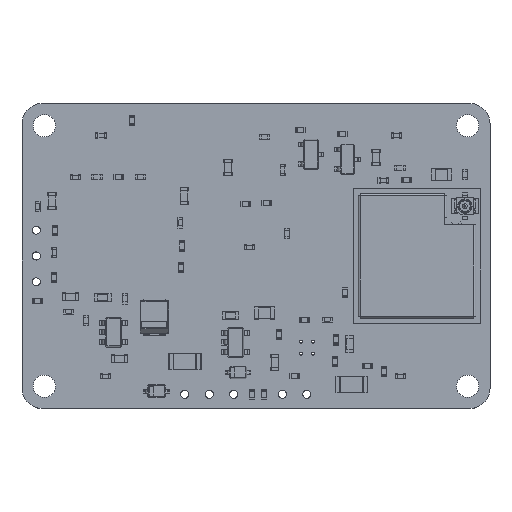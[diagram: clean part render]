
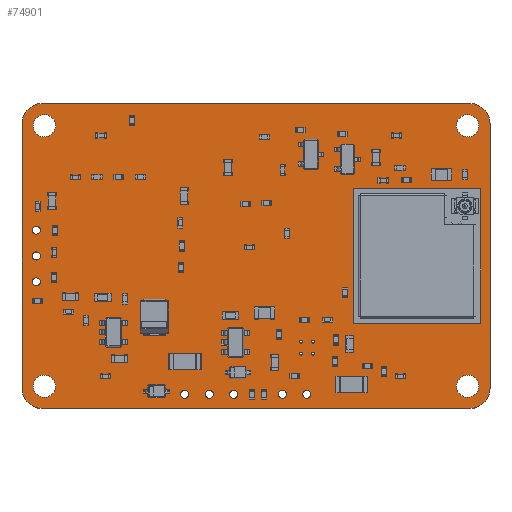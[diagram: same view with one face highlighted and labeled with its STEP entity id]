
A CAD part, top view. The second image highlights one B-rep face of the part: STEP entity #74901.
In plain terms, the highlighted planar face has unit normal (0, 0, 1).
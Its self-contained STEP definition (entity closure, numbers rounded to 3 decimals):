
#74576 = VERTEX_POINT('',#74577);
#74577 = CARTESIAN_POINT('',(121.,15.,0.91));
#74583 = EDGE_CURVE('',#74576,#74584,#74586,.T.);
#74584 = VERTEX_POINT('',#74585);
#74585 = CARTESIAN_POINT('',(123.,13.,0.91));
#74586 = CIRCLE('',#74587,2.);
#74587 = AXIS2_PLACEMENT_3D('',#74588,#74589,#74590);
#74588 = CARTESIAN_POINT('',(121.,13.,0.91));
#74589 = DIRECTION('',(0.,0.,-1.));
#74590 = DIRECTION('',(0.,1.,0.));
#74618 = VERTEX_POINT('',#74619);
#74619 = CARTESIAN_POINT('',(79.,15.,0.91));
#74625 = EDGE_CURVE('',#74618,#74576,#74626,.T.);
#74626 = LINE('',#74627,#74628);
#74627 = CARTESIAN_POINT('',(79.,15.,0.91));
#74628 = VECTOR('',#74629,1.);
#74629 = DIRECTION('',(1.,0.,0.));
#74647 = EDGE_CURVE('',#74584,#74648,#74650,.T.);
#74648 = VERTEX_POINT('',#74649);
#74649 = CARTESIAN_POINT('',(123.,-13.,0.91));
#74650 = LINE('',#74651,#74652);
#74651 = CARTESIAN_POINT('',(123.,13.,0.91));
#74652 = VECTOR('',#74653,1.);
#74653 = DIRECTION('',(0.,-1.,0.));
#74901 = ADVANCED_FACE('',(#74902,#74948,#74959,#74970,#74981,#74992,
    #75003,#75014,#75025,#75036,#75047,#75058,#75069,#75080,#75091,
    #75102,#75113),#75124,.T.);
#74902 = FACE_BOUND('',#74903,.T.);
#74903 = EDGE_LOOP('',(#74904,#74905,#74906,#74915,#74923,#74932,#74940,
    #74947));
#74904 = ORIENTED_EDGE('',*,*,#74583,.F.);
#74905 = ORIENTED_EDGE('',*,*,#74625,.F.);
#74906 = ORIENTED_EDGE('',*,*,#74907,.F.);
#74907 = EDGE_CURVE('',#74908,#74618,#74910,.T.);
#74908 = VERTEX_POINT('',#74909);
#74909 = CARTESIAN_POINT('',(77.,13.,0.91));
#74910 = CIRCLE('',#74911,2.);
#74911 = AXIS2_PLACEMENT_3D('',#74912,#74913,#74914);
#74912 = CARTESIAN_POINT('',(79.,13.,0.91));
#74913 = DIRECTION('',(0.,0.,-1.));
#74914 = DIRECTION('',(-1.,0.,-0.));
#74915 = ORIENTED_EDGE('',*,*,#74916,.F.);
#74916 = EDGE_CURVE('',#74917,#74908,#74919,.T.);
#74917 = VERTEX_POINT('',#74918);
#74918 = CARTESIAN_POINT('',(77.,-13.,0.91));
#74919 = LINE('',#74920,#74921);
#74920 = CARTESIAN_POINT('',(77.,-13.,0.91));
#74921 = VECTOR('',#74922,1.);
#74922 = DIRECTION('',(0.,1.,0.));
#74923 = ORIENTED_EDGE('',*,*,#74924,.F.);
#74924 = EDGE_CURVE('',#74925,#74917,#74927,.T.);
#74925 = VERTEX_POINT('',#74926);
#74926 = CARTESIAN_POINT('',(79.,-15.,0.91));
#74927 = CIRCLE('',#74928,2.);
#74928 = AXIS2_PLACEMENT_3D('',#74929,#74930,#74931);
#74929 = CARTESIAN_POINT('',(79.,-13.,0.91));
#74930 = DIRECTION('',(0.,0.,-1.));
#74931 = DIRECTION('',(0.,-1.,0.));
#74932 = ORIENTED_EDGE('',*,*,#74933,.F.);
#74933 = EDGE_CURVE('',#74934,#74925,#74936,.T.);
#74934 = VERTEX_POINT('',#74935);
#74935 = CARTESIAN_POINT('',(121.,-15.,0.91));
#74936 = LINE('',#74937,#74938);
#74937 = CARTESIAN_POINT('',(121.,-15.,0.91));
#74938 = VECTOR('',#74939,1.);
#74939 = DIRECTION('',(-1.,0.,0.));
#74940 = ORIENTED_EDGE('',*,*,#74941,.F.);
#74941 = EDGE_CURVE('',#74648,#74934,#74942,.T.);
#74942 = CIRCLE('',#74943,2.);
#74943 = AXIS2_PLACEMENT_3D('',#74944,#74945,#74946);
#74944 = CARTESIAN_POINT('',(121.,-13.,0.91));
#74945 = DIRECTION('',(0.,0.,-1.));
#74946 = DIRECTION('',(1.,0.,0.));
#74947 = ORIENTED_EDGE('',*,*,#74647,.F.);
#74948 = FACE_BOUND('',#74949,.T.);
#74949 = EDGE_LOOP('',(#74950));
#74950 = ORIENTED_EDGE('',*,*,#74951,.T.);
#74951 = EDGE_CURVE('',#74952,#74952,#74954,.T.);
#74952 = VERTEX_POINT('',#74953);
#74953 = CARTESIAN_POINT('',(79.2,-13.9,0.91));
#74954 = CIRCLE('',#74955,1.1);
#74955 = AXIS2_PLACEMENT_3D('',#74956,#74957,#74958);
#74956 = CARTESIAN_POINT('',(79.2,-12.8,0.91));
#74957 = DIRECTION('',(-0.,0.,-1.));
#74958 = DIRECTION('',(0.,-1.,-0.));
#74959 = FACE_BOUND('',#74960,.T.);
#74960 = EDGE_LOOP('',(#74961));
#74961 = ORIENTED_EDGE('',*,*,#74962,.T.);
#74962 = EDGE_CURVE('',#74963,#74963,#74965,.T.);
#74963 = VERTEX_POINT('',#74964);
#74964 = CARTESIAN_POINT('',(93.,-14.,0.91));
#74965 = CIRCLE('',#74966,0.4);
#74966 = AXIS2_PLACEMENT_3D('',#74967,#74968,#74969);
#74967 = CARTESIAN_POINT('',(93.,-13.6,0.91));
#74968 = DIRECTION('',(-0.,0.,-1.));
#74969 = DIRECTION('',(-0.,-1.,0.));
#74970 = FACE_BOUND('',#74971,.T.);
#74971 = EDGE_LOOP('',(#74972));
#74972 = ORIENTED_EDGE('',*,*,#74973,.T.);
#74973 = EDGE_CURVE('',#74974,#74974,#74976,.T.);
#74974 = VERTEX_POINT('',#74975);
#74975 = CARTESIAN_POINT('',(95.4,-14.,0.91));
#74976 = CIRCLE('',#74977,0.4);
#74977 = AXIS2_PLACEMENT_3D('',#74978,#74979,#74980);
#74978 = CARTESIAN_POINT('',(95.4,-13.6,0.91));
#74979 = DIRECTION('',(-0.,0.,-1.));
#74980 = DIRECTION('',(-0.,-1.,0.));
#74981 = FACE_BOUND('',#74982,.T.);
#74982 = EDGE_LOOP('',(#74983));
#74983 = ORIENTED_EDGE('',*,*,#74984,.T.);
#74984 = EDGE_CURVE('',#74985,#74985,#74987,.T.);
#74985 = VERTEX_POINT('',#74986);
#74986 = CARTESIAN_POINT('',(97.8,-14.,0.91));
#74987 = CIRCLE('',#74988,0.4);
#74988 = AXIS2_PLACEMENT_3D('',#74989,#74990,#74991);
#74989 = CARTESIAN_POINT('',(97.8,-13.6,0.91));
#74990 = DIRECTION('',(-0.,0.,-1.));
#74991 = DIRECTION('',(0.,-1.,0.));
#74992 = FACE_BOUND('',#74993,.T.);
#74993 = EDGE_LOOP('',(#74994));
#74994 = ORIENTED_EDGE('',*,*,#74995,.T.);
#74995 = EDGE_CURVE('',#74996,#74996,#74998,.T.);
#74996 = VERTEX_POINT('',#74997);
#74997 = CARTESIAN_POINT('',(78.4,-2.94,0.91));
#74998 = CIRCLE('',#74999,0.4);
#74999 = AXIS2_PLACEMENT_3D('',#75000,#75001,#75002);
#75000 = CARTESIAN_POINT('',(78.4,-2.54,0.91));
#75001 = DIRECTION('',(-0.,0.,-1.));
#75002 = DIRECTION('',(-0.,-1.,0.));
#75003 = FACE_BOUND('',#75004,.T.);
#75004 = EDGE_LOOP('',(#75005));
#75005 = ORIENTED_EDGE('',*,*,#75006,.T.);
#75006 = EDGE_CURVE('',#75007,#75007,#75009,.T.);
#75007 = VERTEX_POINT('',#75008);
#75008 = CARTESIAN_POINT('',(102.6,-14.,0.91));
#75009 = CIRCLE('',#75010,0.4);
#75010 = AXIS2_PLACEMENT_3D('',#75011,#75012,#75013);
#75011 = CARTESIAN_POINT('',(102.6,-13.6,0.91));
#75012 = DIRECTION('',(-0.,0.,-1.));
#75013 = DIRECTION('',(-0.,-1.,0.));
#75014 = FACE_BOUND('',#75015,.T.);
#75015 = EDGE_LOOP('',(#75016));
#75016 = ORIENTED_EDGE('',*,*,#75017,.T.);
#75017 = EDGE_CURVE('',#75018,#75018,#75020,.T.);
#75018 = VERTEX_POINT('',#75019);
#75019 = CARTESIAN_POINT('',(105.,-14.,0.91));
#75020 = CIRCLE('',#75021,0.4);
#75021 = AXIS2_PLACEMENT_3D('',#75022,#75023,#75024);
#75022 = CARTESIAN_POINT('',(105.,-13.6,0.91));
#75023 = DIRECTION('',(-0.,0.,-1.));
#75024 = DIRECTION('',(-0.,-1.,0.));
#75025 = FACE_BOUND('',#75026,.T.);
#75026 = EDGE_LOOP('',(#75027));
#75027 = ORIENTED_EDGE('',*,*,#75028,.T.);
#75028 = EDGE_CURVE('',#75029,#75029,#75031,.T.);
#75029 = VERTEX_POINT('',#75030);
#75030 = CARTESIAN_POINT('',(104.41,-9.74,0.91));
#75031 = CIRCLE('',#75032,0.15);
#75032 = AXIS2_PLACEMENT_3D('',#75033,#75034,#75035);
#75033 = CARTESIAN_POINT('',(104.41,-9.59,0.91));
#75034 = DIRECTION('',(-0.,0.,-1.));
#75035 = DIRECTION('',(-0.,-1.,0.));
#75036 = FACE_BOUND('',#75037,.T.);
#75037 = EDGE_LOOP('',(#75038));
#75038 = ORIENTED_EDGE('',*,*,#75039,.T.);
#75039 = EDGE_CURVE('',#75040,#75040,#75042,.T.);
#75040 = VERTEX_POINT('',#75041);
#75041 = CARTESIAN_POINT('',(104.41,-8.56,0.91));
#75042 = CIRCLE('',#75043,0.15);
#75043 = AXIS2_PLACEMENT_3D('',#75044,#75045,#75046);
#75044 = CARTESIAN_POINT('',(104.41,-8.41,0.91));
#75045 = DIRECTION('',(-0.,0.,-1.));
#75046 = DIRECTION('',(-0.,-1.,0.));
#75047 = FACE_BOUND('',#75048,.T.);
#75048 = EDGE_LOOP('',(#75049));
#75049 = ORIENTED_EDGE('',*,*,#75050,.T.);
#75050 = EDGE_CURVE('',#75051,#75051,#75053,.T.);
#75051 = VERTEX_POINT('',#75052);
#75052 = CARTESIAN_POINT('',(105.59,-9.74,0.91));
#75053 = CIRCLE('',#75054,0.15);
#75054 = AXIS2_PLACEMENT_3D('',#75055,#75056,#75057);
#75055 = CARTESIAN_POINT('',(105.59,-9.59,0.91));
#75056 = DIRECTION('',(-0.,0.,-1.));
#75057 = DIRECTION('',(-0.,-1.,0.));
#75058 = FACE_BOUND('',#75059,.T.);
#75059 = EDGE_LOOP('',(#75060));
#75060 = ORIENTED_EDGE('',*,*,#75061,.T.);
#75061 = EDGE_CURVE('',#75062,#75062,#75064,.T.);
#75062 = VERTEX_POINT('',#75063);
#75063 = CARTESIAN_POINT('',(105.59,-8.56,0.91));
#75064 = CIRCLE('',#75065,0.15);
#75065 = AXIS2_PLACEMENT_3D('',#75066,#75067,#75068);
#75066 = CARTESIAN_POINT('',(105.59,-8.41,0.91));
#75067 = DIRECTION('',(-0.,0.,-1.));
#75068 = DIRECTION('',(-0.,-1.,0.));
#75069 = FACE_BOUND('',#75070,.T.);
#75070 = EDGE_LOOP('',(#75071));
#75071 = ORIENTED_EDGE('',*,*,#75072,.T.);
#75072 = EDGE_CURVE('',#75073,#75073,#75075,.T.);
#75073 = VERTEX_POINT('',#75074);
#75074 = CARTESIAN_POINT('',(120.8,-13.9,0.91));
#75075 = CIRCLE('',#75076,1.1);
#75076 = AXIS2_PLACEMENT_3D('',#75077,#75078,#75079);
#75077 = CARTESIAN_POINT('',(120.8,-12.8,0.91));
#75078 = DIRECTION('',(-0.,0.,-1.));
#75079 = DIRECTION('',(0.,-1.,0.));
#75080 = FACE_BOUND('',#75081,.T.);
#75081 = EDGE_LOOP('',(#75082));
#75082 = ORIENTED_EDGE('',*,*,#75083,.T.);
#75083 = EDGE_CURVE('',#75084,#75084,#75086,.T.);
#75084 = VERTEX_POINT('',#75085);
#75085 = CARTESIAN_POINT('',(78.4,-0.4,0.91));
#75086 = CIRCLE('',#75087,0.4);
#75087 = AXIS2_PLACEMENT_3D('',#75088,#75089,#75090);
#75088 = CARTESIAN_POINT('',(78.4,0.,0.91));
#75089 = DIRECTION('',(-0.,0.,-1.));
#75090 = DIRECTION('',(-0.,-1.,0.));
#75091 = FACE_BOUND('',#75092,.T.);
#75092 = EDGE_LOOP('',(#75093));
#75093 = ORIENTED_EDGE('',*,*,#75094,.T.);
#75094 = EDGE_CURVE('',#75095,#75095,#75097,.T.);
#75095 = VERTEX_POINT('',#75096);
#75096 = CARTESIAN_POINT('',(78.4,2.14,0.91));
#75097 = CIRCLE('',#75098,0.4);
#75098 = AXIS2_PLACEMENT_3D('',#75099,#75100,#75101);
#75099 = CARTESIAN_POINT('',(78.4,2.54,0.91));
#75100 = DIRECTION('',(-0.,0.,-1.));
#75101 = DIRECTION('',(-0.,-1.,0.));
#75102 = FACE_BOUND('',#75103,.T.);
#75103 = EDGE_LOOP('',(#75104));
#75104 = ORIENTED_EDGE('',*,*,#75105,.T.);
#75105 = EDGE_CURVE('',#75106,#75106,#75108,.T.);
#75106 = VERTEX_POINT('',#75107);
#75107 = CARTESIAN_POINT('',(79.2,11.7,0.91));
#75108 = CIRCLE('',#75109,1.1);
#75109 = AXIS2_PLACEMENT_3D('',#75110,#75111,#75112);
#75110 = CARTESIAN_POINT('',(79.2,12.8,0.91));
#75111 = DIRECTION('',(-0.,0.,-1.));
#75112 = DIRECTION('',(0.,-1.,-0.));
#75113 = FACE_BOUND('',#75114,.T.);
#75114 = EDGE_LOOP('',(#75115));
#75115 = ORIENTED_EDGE('',*,*,#75116,.T.);
#75116 = EDGE_CURVE('',#75117,#75117,#75119,.T.);
#75117 = VERTEX_POINT('',#75118);
#75118 = CARTESIAN_POINT('',(120.8,11.7,0.91));
#75119 = CIRCLE('',#75120,1.1);
#75120 = AXIS2_PLACEMENT_3D('',#75121,#75122,#75123);
#75121 = CARTESIAN_POINT('',(120.8,12.8,0.91));
#75122 = DIRECTION('',(-0.,0.,-1.));
#75123 = DIRECTION('',(0.,-1.,0.));
#75124 = PLANE('',#75125);
#75125 = AXIS2_PLACEMENT_3D('',#75126,#75127,#75128);
#75126 = CARTESIAN_POINT('',(0.,0.,0.91));
#75127 = DIRECTION('',(0.,0.,1.));
#75128 = DIRECTION('',(1.,0.,-0.));
